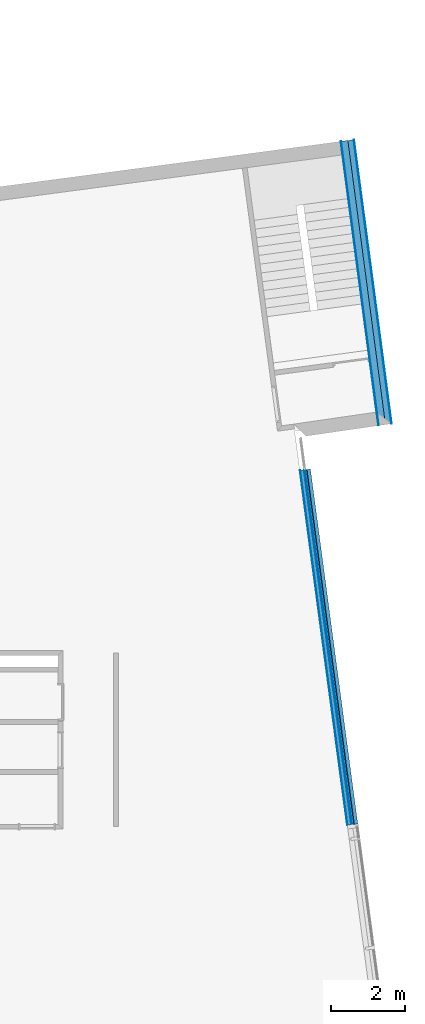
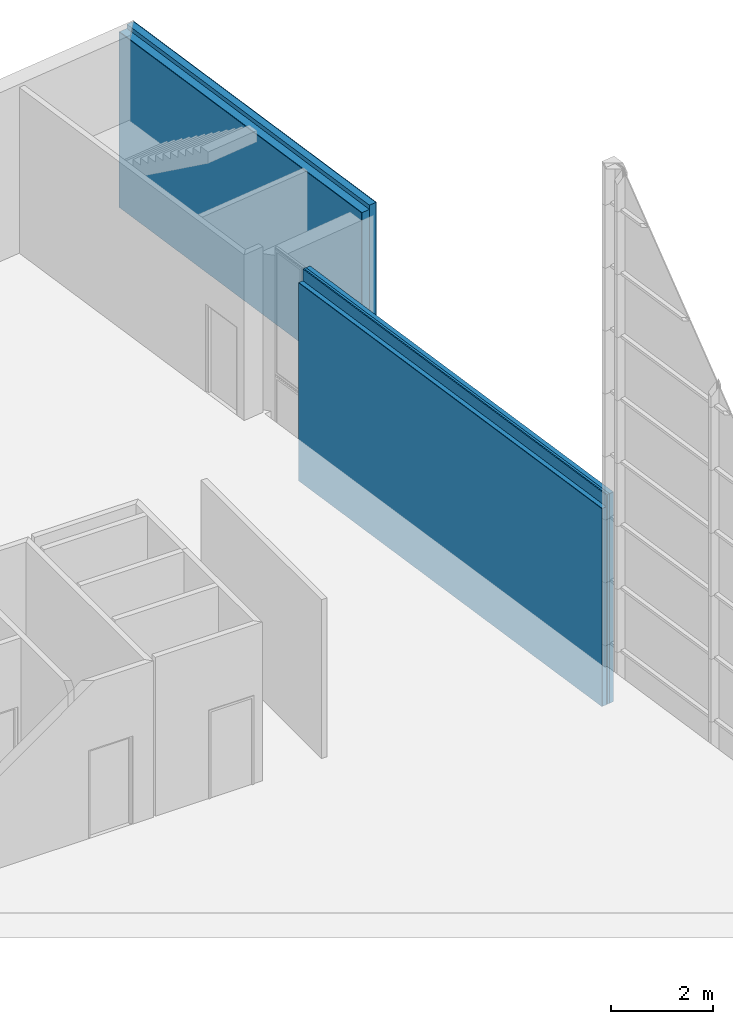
# One storey, part 22 of 27: 9 building element parts, 2 openings, 2 elements without a shape of their own.
"""IFC2X3 building model written with IfcOpenShell, lengths in metres."""

from ifc_helpers import new_model, entity, si_unit, converted_unit, money_unit, direction, frame, origin_with_axes, origin_2d_with_axis, place, context, subcontext, project, spatial, polyline, rectangle, outline, extrude, material, type_object, element, aggregate, save


model = new_model("IFC2X3")

# Units and contexts
model_context = context("Model", 3, precision=1e-05, world=origin_with_axes(), true_north=direction((0.0, 1.0)))
body_context = subcontext(model_context, "Body", "Model", "MODEL_VIEW")
ifc_project = project(units=[si_unit("LENGTHUNIT", "METRE"), si_unit("AREAUNIT", "SQUARE_METRE"), si_unit("VOLUMEUNIT", "CUBIC_METRE"), converted_unit("PLANEANGLEUNIT", "DEGREE", entity("IfcPlaneAngleMeasure", 0.0174532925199), si_unit("PLANEANGLEUNIT", "RADIAN"), dimensions=[0, 0, 0, 0, 0, 0, 0]), si_unit("SOLIDANGLEUNIT", "STERADIAN"), money_unit("EUR"), converted_unit("TIMEUNIT", "Year", entity("IfcTimeMeasure", 31556926.0), si_unit("TIMEUNIT", "SECOND"), dimensions=[0, 0, 0, 0, 0, 0, 0]), si_unit("MASSUNIT", "GRAM"), si_unit("THERMODYNAMICTEMPERATUREUNIT", "DEGREE_CELSIUS"), si_unit("LUMINOUSINTENSITYUNIT", "LUMEN")], contexts=[model_context])

# Site, building, storey
site_placement = place(None, origin_with_axes())
site = spatial("IfcSite", under=ifc_project, at=site_placement, Name="Undefined", CompositionType="ELEMENT")
building_placement = place(site_placement, origin_with_axes())
building = spatial("IfcBuilding", under=site, at=building_placement, Name="Undefined", CompositionType="ELEMENT")
storey_placement = place(building_placement, frame((0.0, 0.0, 5.4), z_axis=(0.0, 0.0, 1.0), x_axis=(1.0, 0.0, 0.0)))
storey = spatial("IfcBuildingStorey", under=building, at=storey_placement, Name="R+1", CompositionType="ELEMENT", Elevation=5.4)

# Wall, building element parts
wall_type_1 = type_object("IfcWallType", Name="Profil personnalis\x8e 370 x 4280", PredefinedType="NOTDEFINED")
wall_1_placement = place(storey_placement, frame((68.3507482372, 20.1953635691, -0.28), z_axis=(0.0, 0.0, 1.0), x_axis=(-0.131283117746, 0.99134491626, 0.0)))
wall_1 = element("IfcWall", 1, at=wall_1_placement, inside=storey, type_object=wall_type_1, Name="ExtWall_01", ObjectType="WALL")
ifc_material_1 = material(Name="Finition ext - Cr\x8epis")
building_element_part_1_placement = place(wall_1_placement, origin_with_axes())
building_element_part_1 = element("IfcBuildingElementPart", 2, at=building_element_part_1_placement, material=ifc_material_1, context=body_context, shape_type="SweptSolid", body=[
    extrude(outline(polyline([(-0.015, 0.0), (0.0, 0.0), (0.0, 4.28), (-0.015, 4.28), (-0.015, 0.0)])), frame((0.0, 0.0, 0.0), z_axis=(-1.0, 0.0, 0.0), x_axis=(0.0, -1.0, 0.0)), (0.0, 0.0, -1.0), 7.77321870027),
])
ifc_material_2 = material(Name="Isolation - Fibres de bois")
building_element_part_2_placement = place(wall_1_placement, origin_with_axes())
building_element_part_2 = element("IfcBuildingElementPart", 3, at=building_element_part_2_placement, material=ifc_material_2, context=body_context, shape_type="SweptSolid", body=[
    extrude(outline(polyline([(-0.175, 0.0), (-0.015, 0.0), (-0.015, 4.28), (-0.175, 4.28), (-0.175, 0.0)])), frame((0.0, 0.0, 0.0), z_axis=(-1.0, 0.0, 0.0), x_axis=(0.0, -1.0, 0.0)), (0.0, 0.0, -1.0), 7.77321870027),
])
ifc_material_3 = material(Name="Struct. - B.A. banch\x8e")
building_element_part_3_placement = place(wall_1_placement, origin_with_axes())
building_element_part_3 = element("IfcBuildingElementPart", 4, at=building_element_part_3_placement, material=ifc_material_3, context=body_context, shape_type="SweptSolid", body=[
    extrude(outline(polyline([(-0.355, 0.0), (-0.175, 0.0), (-0.175, 4.18), (-0.355, 4.18), (-0.355, 0.0)])), frame((0.0, 0.0, 0.0), z_axis=(-1.0, 0.0, 0.0), x_axis=(0.0, -1.0, 0.0)), (0.0, 0.0, -1.0), 7.77321870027),
])
ifc_material_4 = material(Name="Finition int - Enduit pl\x89tre")
building_element_part_4_placement = place(wall_1_placement, origin_with_axes())
building_element_part_4 = element("IfcBuildingElementPart", 5, at=building_element_part_4_placement, material=ifc_material_4, context=body_context, shape_type="SweptSolid", body=[
    extrude(outline(polyline([(-0.37, 0.0), (-0.355, 0.0), (-0.355, 4.18), (-0.37, 4.18), (-0.37, 0.0)])), frame((0.0, 0.0, 0.0), z_axis=(-1.0, 0.0, 0.0), x_axis=(0.0, -1.0, 0.0)), (0.0, 0.0, -1.0), 7.77321870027),
])
aggregate(wall_1, [building_element_part_1, building_element_part_2, building_element_part_3, building_element_part_4])

# Wall, openings, building element parts
wall_type_2 = type_object("IfcWallType", Name="1etage 287 x 5000", PredefinedType="NOTDEFINED")
wall_2_placement = place(storey_placement, frame((67.4260984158, 9.3379372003, -1.0), z_axis=(0.0, 0.0, 1.0), x_axis=(-0.132256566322, 0.991215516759, 0.0)))
wall_2 = element("IfcWall", 6, at=wall_2_placement, inside=storey, type_object=wall_type_2, Name="ExtWall_01", ObjectType="WALL")
opening_1_placement = place(wall_2_placement, frame((10.1631166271, 0.0, 0.0), z_axis=(0.0, 0.0, 1.0), x_axis=(1.0, 0.0, 0.0)))
element("IfcOpeningElement", 7, at=opening_1_placement, cuts=wall_2, Name="WD - 004", context=body_context, shape_type="SweptSolid", body=[
    extrude(rectangle(XDim=0.9, YDim=2.0, at=origin_2d_with_axis()), frame((0.0, 0.574, 1.0), z_axis=(0.0, 1.0, 0.0), x_axis=(-1.0, 0.0, 0.0)), (0.0, 0.0, -1.0), 0.454),
    extrude(rectangle(XDim=0.9, YDim=2.0, at=origin_2d_with_axis()), frame((0.0, -0.287, 1.0), z_axis=(0.0, -1.0, 0.0), x_axis=(-1.0, 0.0, 0.0)), (0.0, 0.0, -1.0), 0.407),
])
opening_2_placement = place(wall_2_placement, frame((10.1631166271, 0.0, 2.0), z_axis=(0.0, 0.0, 1.0), x_axis=(1.0, 0.0, 0.0)))
element("IfcOpeningElement", 8, at=opening_2_placement, cuts=wall_2, Name="WD - 004", context=body_context, shape_type="SweptSolid", body=[
    extrude(rectangle(XDim=0.9, YDim=3.025, at=origin_2d_with_axis()), frame((0.0, 0.574, 1.5125), z_axis=(0.0, 1.0, 0.0), x_axis=(-1.0, 0.0, 0.0)), (0.0, 0.0, -1.0), 0.454),
    extrude(rectangle(XDim=0.9, YDim=3.025, at=origin_2d_with_axis()), frame((0.0, -0.287, 1.5125), z_axis=(0.0, -1.0, 0.0), x_axis=(-1.0, 0.0, 0.0)), (0.0, 0.0, -1.0), 0.407),
])
building_element_part_5_placement = place(wall_2_placement, origin_with_axes())
building_element_part_5 = element("IfcBuildingElementPart", 9, at=building_element_part_5_placement, material=ifc_material_4, context=body_context, shape_type="SweptSolid", body=[
    extrude(outline(polyline([(-0.1, 0.0), (0.0, 0.0), (0.0, 5.0), (-0.1, 5.0), (-0.1, 0.0)])), frame((0.0, 0.0, 0.0), z_axis=(-1.0, 0.0, 0.0), x_axis=(0.0, -1.0, 0.0)), (0.0, 0.0, -1.0), 10.6131166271),
])
ifc_material_5 = material(Name="Lame d'air")
building_element_part_6_placement = place(wall_2_placement, origin_with_axes())
building_element_part_6 = element("IfcBuildingElementPart", 10, at=building_element_part_6_placement, material=ifc_material_5, context=body_context, shape_type="SweptSolid", body=[
    extrude(outline(polyline([(-0.15, 0.0), (-0.1, 0.0), (-0.1, 5.0), (-0.15, 5.0), (-0.15, 0.0)])), frame((0.0, 0.0, 0.0), z_axis=(-1.0, 0.0, 0.0), x_axis=(0.0, -1.0, 0.0)), (0.0, 0.0, -1.0), 10.6131166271),
])
ifc_material_6 = material(Name="Isolation - Laine de verre")
building_element_part_7_placement = place(wall_2_placement, origin_with_axes())
building_element_part_7 = element("IfcBuildingElementPart", 11, at=building_element_part_7_placement, material=ifc_material_6, context=body_context, shape_type="SweptSolid", body=[
    extrude(outline(polyline([(-0.175, 0.0), (-0.15, 0.0), (-0.15, 5.0), (-0.175, 5.0), (-0.175, 0.0)])), frame((0.0, 0.0, 0.0), z_axis=(-1.0, 0.0, 0.0), x_axis=(0.0, -1.0, 0.0)), (0.0, 0.0, -1.0), 10.6131166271),
])
building_element_part_8_placement = place(wall_2_placement, origin_with_axes())
building_element_part_8 = element("IfcBuildingElementPart", 12, at=building_element_part_8_placement, material=ifc_material_3, context=body_context, shape_type="SweptSolid", body=[
    extrude(outline(polyline([(-0.275, 0.0), (-0.175, 0.0), (-0.175, 4.72), (-0.275, 4.72), (-0.275, 0.0)])), frame((0.0, 0.0, 0.0), z_axis=(-1.0, 0.0, 0.0), x_axis=(0.0, -1.0, 0.0)), (0.0, 0.0, -1.0), 10.6131166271),
])
ifc_material_7 = material(Name="Finition int - Enduit min\x8eral")
building_element_part_9_placement = place(wall_2_placement, origin_with_axes())
building_element_part_9 = element("IfcBuildingElementPart", 13, at=building_element_part_9_placement, material=ifc_material_7, context=body_context, shape_type="SweptSolid", body=[
    extrude(outline(polyline([(-0.287, 0.0), (-0.275, 0.0), (-0.275, 4.72), (-0.287, 4.72), (-0.287, 0.0)])), frame((0.0, 0.0, 0.0), z_axis=(-1.0, 0.0, 0.0), x_axis=(0.0, -1.0, 0.0)), (0.0, 0.0, -1.0), 10.6131166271),
])
aggregate(wall_2, [building_element_part_5, building_element_part_6, building_element_part_7, building_element_part_8, building_element_part_9])

save(model, "model.ifc")
